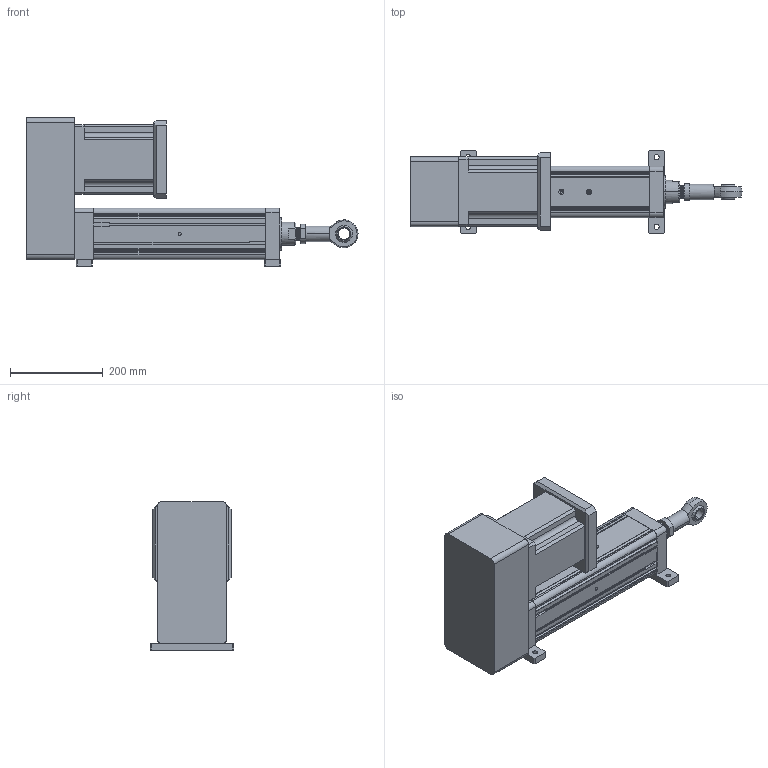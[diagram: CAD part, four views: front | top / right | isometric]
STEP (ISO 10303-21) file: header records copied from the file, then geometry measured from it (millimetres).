
FILE_DESCRIPTION (( 'STEP AP203' ), '1' );
FILE_NAME ('YRJ110-L200-H2K3.STEP', '2020-01-04T06:20:36', ( 'User' ), ( 'China' ), 'SwSTEP 2.0', 'SolidWorks 2016', '' );
FILE_SCHEMA (( 'CONFIG_CONTROL_DESIGN' ));
Length unit declared in the file: millimetre
Products named in the file (11): K1-110; _BNC01-SI25T_K-R-001; 095-100俴最倰第; _BNC01-SI25T_K-R-002; 萇儂碟-110; BNC01-SI25T_K-R; 142熬厒儂; K3-110; H2-110-1; YRJ110-L200-H2K3; H2-110-2
Assembly tree (10 placements, depth 4):
  YRJ110-L200-H2K3
    095-100俴最倰第
    萇儂碟-110
    142熬厒儂
    H2-110-1
    H2-110-2
    K3-110
      K1-110
      BNC01-SI25T_K-R
        _BNC01-SI25T_K-R-001
        _BNC01-SI25T_K-R-002
Bounding box: 715 x 180 x 320 mm (x, y, z)
Volume: 11634382.9 mm3; surface area: 865748.9 mm2
Topology: 8 solids, 8 shells, 410 faces, 1133 edges, 729 vertices
Faces by surface type: plane 196, cylinder 166, cone 34, bspline 14
Entity records: 23179 total; most frequent: CARTESIAN_POINT 11776, ORIENTED_EDGE 2210, DIRECTION 2050, EDGE_CURVE 1105, VERTEX_POINT 729, VECTOR 684, LINE 684, AXIS2_PLACEMENT_3D 683
